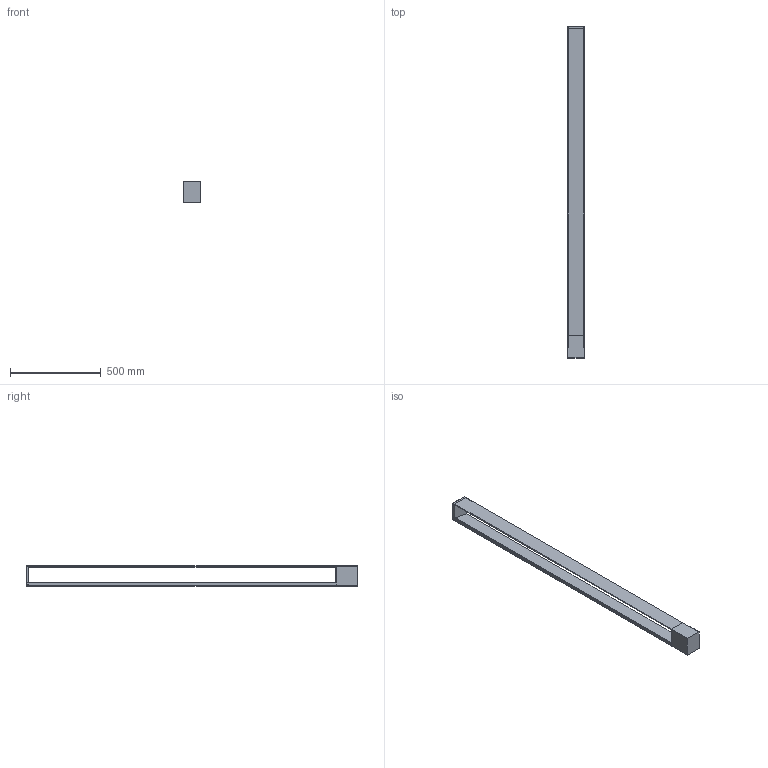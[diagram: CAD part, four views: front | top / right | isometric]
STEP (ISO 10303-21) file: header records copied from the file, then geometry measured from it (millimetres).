
FILE_DESCRIPTION (( 'STEP AP214' ), '1' );
FILE_NAME ('3D_TRU_FLOOR.STEP', '2018-02-19T11:06:40', ( 'Utente' ), ( '' ), 'SwSTEP 2.0', 'SolidWorks 2016', '' );
FILE_SCHEMA (( 'AUTOMOTIVE_DESIGN' ));
Length unit declared in the file: millimetre
Products named in the file (3): Group2^3D_TRU_FLOOR; Group1^3D_TRU_FLOOR; 3D_TRU_FLOOR
Assembly tree (2 placements, depth 2):
  3D_TRU_FLOOR
    Group1^3D_TRU_FLOOR
    Group2^3D_TRU_FLOOR
Bounding box: 93.2 x 1831.5 x 114.2 mm (x, y, z)
Volume: 4230141.2 mm3; surface area: 855359.5 mm2
Topology: 3 solids, 3 shells, 125 faces, 325 edges, 200 vertices
Faces by surface type: plane 86, cylinder 28, bspline 5, sphere 4, torus 2
Entity records: 4120 total; most frequent: CARTESIAN_POINT 1015, ORIENTED_EDGE 642, DIRECTION 602, EDGE_CURVE 321, VECTOR 244, LINE 244, VERTEX_POINT 200, AXIS2_PLACEMENT_3D 179
